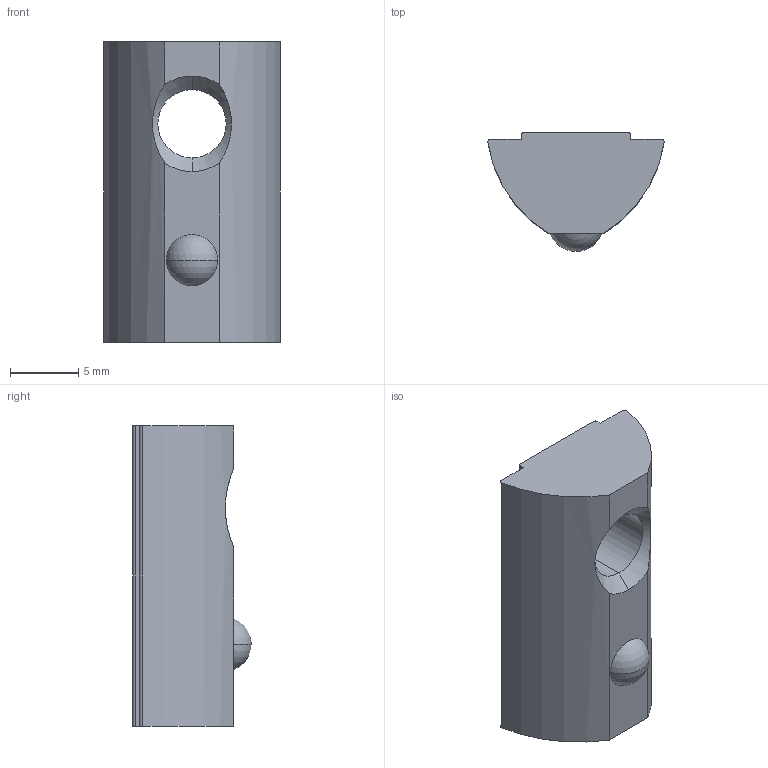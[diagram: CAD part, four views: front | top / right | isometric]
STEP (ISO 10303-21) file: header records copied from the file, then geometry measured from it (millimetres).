
FILE_DESCRIPTION (( 'STEP AP203' ), '1' );
FILE_NAME ('LIMA-LHNR6-84040.STEP', '2018-03-15T12:18:53', ( '' ), ( '' ), 'SwSTEP 2.0', 'SolidWorks 2013', '' );
FILE_SCHEMA (( 'CONFIG_CONTROL_DESIGN' ));
Length unit declared in the file: millimetre
Products named in the file (1): LIMA-LHNR6-84040
Bounding box: 12.94 x 8.7 x 22 mm (x, y, z)
Volume: 1461.6 mm3; surface area: 974.5 mm2
Topology: 1 solids, 1 shells, 24 faces, 63 edges, 41 vertices
Faces by surface type: cylinder 9, plane 9, cone 4, sphere 2
Entity records: 854 total; most frequent: CARTESIAN_POINT 155, DIRECTION 139, ORIENTED_EDGE 126, EDGE_CURVE 63, AXIS2_PLACEMENT_3D 53, VERTEX_POINT 41, VECTOR 33, LINE 33
